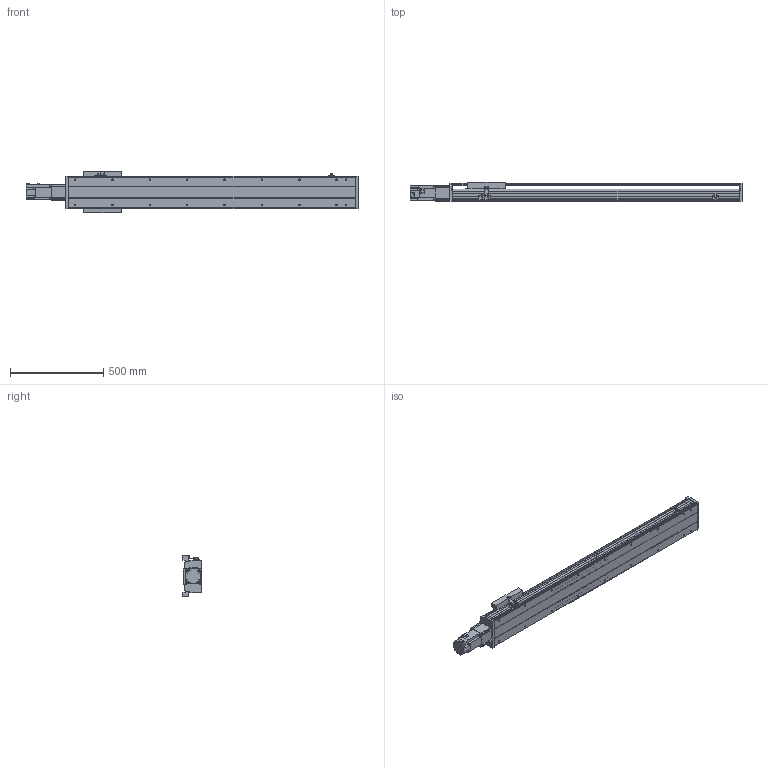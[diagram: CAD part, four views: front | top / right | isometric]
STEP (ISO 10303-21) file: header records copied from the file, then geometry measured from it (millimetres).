
FILE_DESCRIPTION( ( 'STEP AP214' ), '1' );
FILE_NAME( 'x:/temp/worker_27/temp/exporttempdir_6708_414_49EdW/format_0/PSS200-L10-S1200-BC-T75-C1-N(0).stp', '2022-06-06T02:37:17', ( 'License CC BY-ND 4.0' ), ( 'CADENAS' ), ' ', 'PARTsolutions', ' ' );
FILE_SCHEMA( ( 'AUTOMOTIVE_DESIGN { 1 0 10303 214 1 1 1 1 }' ) );
Length unit declared in the file: millimetre
Products named in the file (8): PSS200-L10-S1200-BC-T75-C1-N(0); _PSS200-S1200-BC-C1-N_body; _PSS200-N_Q; _PSS200-BC-C1-N_sl; _PSS200-N_sensor; _PSS200BC-N_h; _T75-p1; _PSS200-S1200-BC-N_S
Assembly tree (9 placements, depth 2):
  PSS200-L10-S1200-BC-T75-C1-N(0)
    _PSS200-S1200-BC-C1-N_body
    _PSS200-N_Q
    _PSS200-BC-C1-N_sl
    _PSS200-N_sensor  x3
    _PSS200BC-N_h
    _T75-p1
    _PSS200-S1200-BC-N_S
Bounding box: 1776.3 x 101.5 x 223.86 mm (x, y, z)
Volume: 9490113 mm3; surface area: 2476805.1 mm2
Topology: 9 solids, 9 shells, 589 faces, 1579 edges, 1048 vertices
Faces by surface type: plane 439, cylinder 124, cone 26
Full cylindrical faces by diameter (mm): 4 x2, 4.5 x4, 6 x11, 6.647 x22, 8 x8, 10 x6, 25 x1, 67 x1, 70 x1
Entity records: 20651 total; most frequent: CARTESIAN_POINT 2872, DIRECTION 2701, ORIENTED_EDGE 2666, EDGE_CURVE 1333, LINE 1051, VECTOR 1051, VERTEX_POINT 932, AXIS2_PLACEMENT_3D 825
